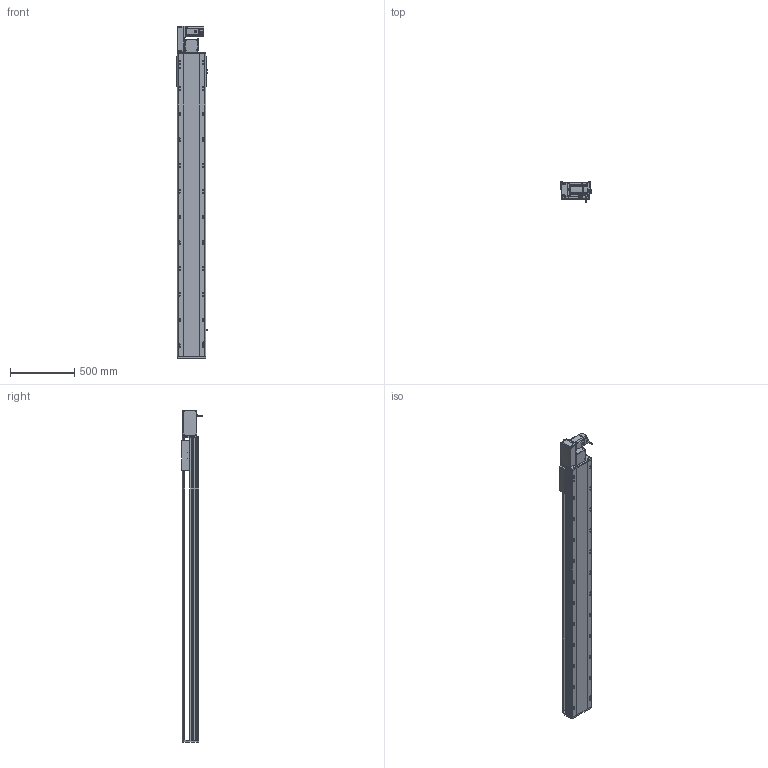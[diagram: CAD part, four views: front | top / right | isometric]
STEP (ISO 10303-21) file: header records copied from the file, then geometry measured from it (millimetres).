
FILE_DESCRIPTION (( 'STEP AP214' ), '1' );
FILE_NAME ('RTB22S-XX-2000-L-M75-C4.STEP', '2025-12-12T03:23:51', ( '' ), ( '' ), 'SwSTEP 2.0', 'SolidWorks 2018', '' );
FILE_SCHEMA (( 'AUTOMOTIVE_DESIGN' ));
Length unit declared in the file: millimetre
Products named in the file (14): 750W萇儂^RTB22S-XX-XX-L-M75-C4; RTH22-GY-013外置感应片^RTB22S-XX-XX-L-M75-C4; RTB22S-GY-007奻裔^RTB22S-XX-XX-L-M75-C4; RTB22S-GY-005P^RTB22S-L-々湍釱蚾饜_RTB22S-XX-XX-L-M75-C4; RTB22S-GY-014--々湍釱^RTB22S-L-々湍釱蚾饜_RTB22S-XX-XX-L-M75-C4; RTB22S-GY-017P^RTB22S-L-々湍釱蚾饜_RTB22S-XX-XX-L-M75-C4; RTB22S-GY-008-M75--萇儂啣^RTB22S-L-々湍釱蚾饜_RTB22S-XX-XX-L-M75-C4; RTB22S-GY-001耜裔^RTB22S-XX-XX-L-M75-C4; RTB22S-L-々湍釱蚾饜^RTB22S-XX-XX-L-M75-C4; RTB22S-GY-018P^RTB22S-L-々湍釱蚾饜_RTB22S-XX-XX-L-M75-C4; RTB22S-L-011菁釱^RTB22S-XX-XX-L-M75-C4; OMRON EE-SX672 传感器^RTB22S-XX-XX-L-M75-C4; RTB22S-L-004賑釱^RTB22S-XX-XX-L-M75-C4; RTB22S-XX-2000-L-M75-C4
Assembly tree (16 placements, depth 3):
  RTB22S-XX-2000-L-M75-C4
    RTB22S-L-011菁釱^RTB22S-XX-XX-L-M75-C4
    750W萇儂^RTB22S-XX-XX-L-M75-C4
    RTB22S-L-004賑釱^RTB22S-XX-XX-L-M75-C4
    OMRON EE-SX672 传感器^RTB22S-XX-XX-L-M75-C4  x3
    RTH22-GY-013外置感应片^RTB22S-XX-XX-L-M75-C4
    RTB22S-GY-007奻裔^RTB22S-XX-XX-L-M75-C4
    RTB22S-GY-001耜裔^RTB22S-XX-XX-L-M75-C4
    RTB22S-L-々湍釱蚾饜^RTB22S-XX-XX-L-M75-C4
      RTB22S-GY-014--々湍釱^RTB22S-L-々湍釱蚾饜_RTB22S-XX-XX-L-M75-C4
      RTB22S-GY-017P^RTB22S-L-々湍釱蚾饜_RTB22S-XX-XX-L-M75-C4  x2
      RTB22S-GY-005P^RTB22S-L-々湍釱蚾饜_RTB22S-XX-XX-L-M75-C4
      RTB22S-GY-008-M75--萇儂啣^RTB22S-L-々湍釱蚾饜_RTB22S-XX-XX-L-M75-C4
      RTB22S-GY-018P^RTB22S-L-々湍釱蚾饜_RTB22S-XX-XX-L-M75-C4
Bounding box: 238.5 x 162.7 x 2579 mm (x, y, z)
Volume: 32942933.3 mm3; surface area: 3380160.6 mm2
Topology: 15 solids, 15 shells, 2055 faces, 5586 edges, 3572 vertices
Faces by surface type: plane 923, cylinder 670, bspline 296, cone 154, sphere 8, torus 4
Entity records: 55400 total; most frequent: CARTESIAN_POINT 15764, ORIENTED_EDGE 7928, DIRECTION 7698, EDGE_CURVE 3964, AXIS2_PLACEMENT_3D 2742, VERTEX_POINT 2576, LINE 2214, VECTOR 2214
